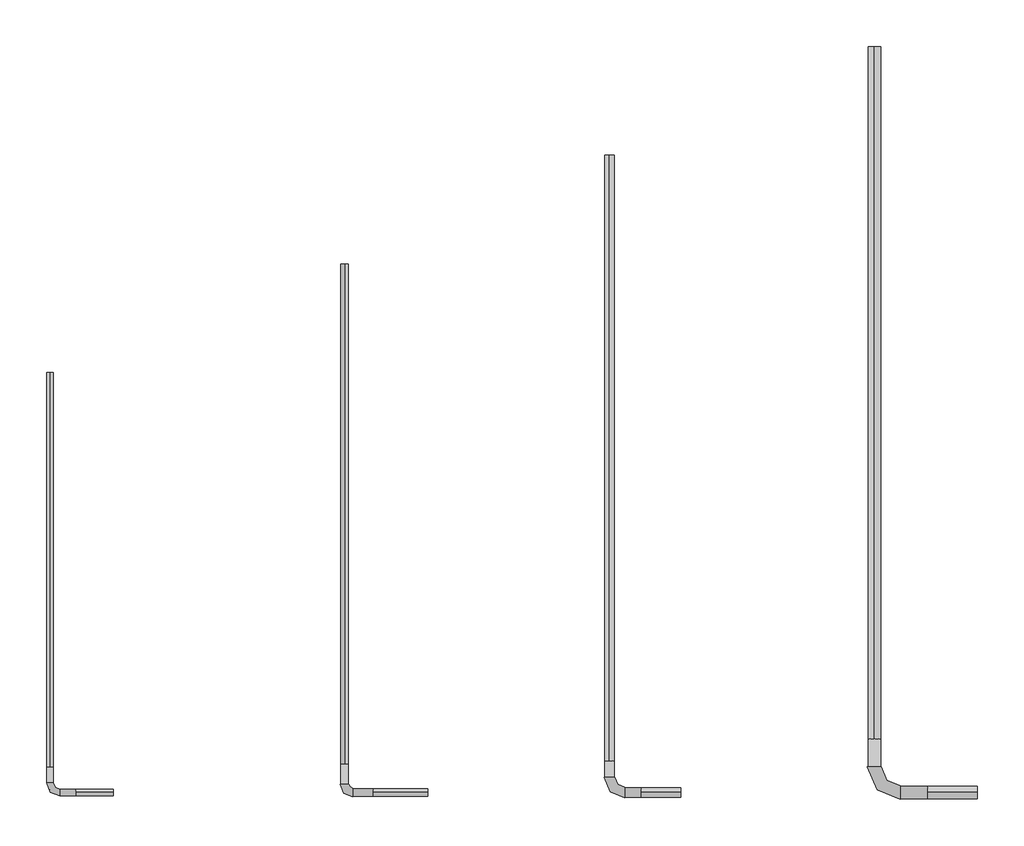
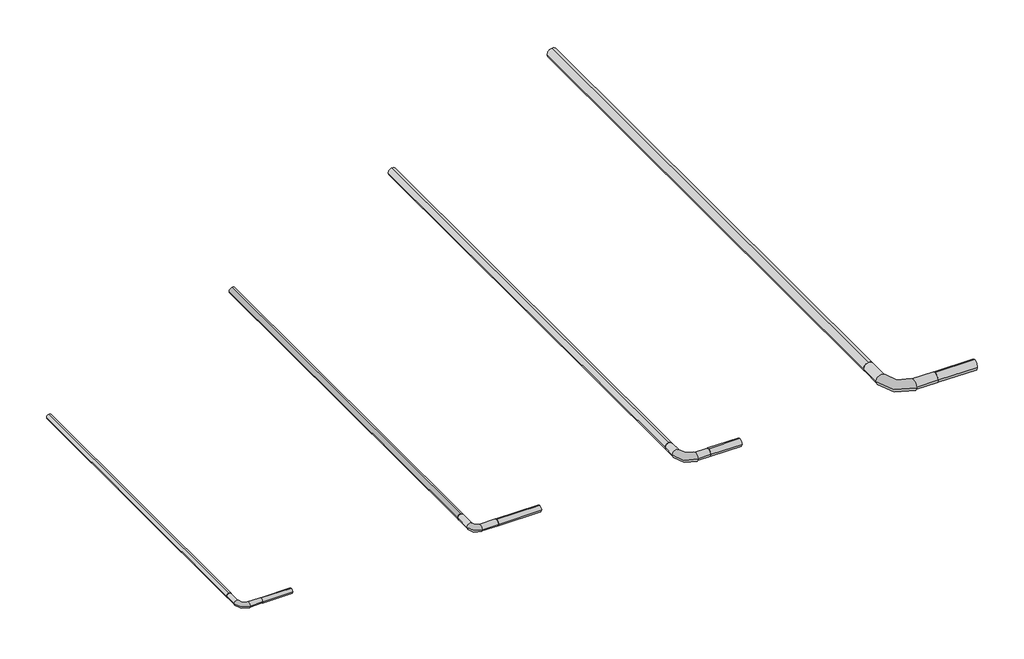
# One storey, incomplete: 8 pipe segments, 4 pipe fittings.
"""IFC4 building model written with IfcOpenShell, lengths in millimetres."""

from ifc_helpers import new_model, si_unit, point, frame, frame_2d, origin, origin_2d, place, context, project, spatial, circle_curve, trimmed, segment, composite_curve, outline, extrude, transform, mapped, element, save
from components import pipe_fitting_81160ba3, pipe_fitting_69b39bb1, pipe_fitting_4785ee25, pipe_fitting_2bcd2a3f

model = new_model("IFC4")

# Units and contexts
model_context = context("Model", 3, world=origin())
ifc_project = project(units=[si_unit("LENGTHUNIT", "METRE", prefix="MILLI")], contexts=[model_context])

# Site, building, storey
site = spatial("IfcSite", under=ifc_project)
building = spatial("IfcBuilding", under=site)
storey = spatial("IfcBuildingStorey", under=building, Name="Этаж 01", Elevation=0.0)

# Pipe fittings
placement = place(None, origin())
pipe_fitting_shape = pipe_fitting_81160ba3(model_context)
element("IfcPipeFitting", 1, ObjectType="ADSK_ФитингСварнойПЭ_Отвод : Стандартная", at=placement, inside=storey, context=model_context, shape_type="MappedRepresentation", body=[
    mapped(pipe_fitting_shape, transform((2025.4185077, 0.0, 0.0), x_axis=(0.0, -1.0, 0.0), y_axis=(1.0, 0.0, 0.0), z_axis=(0.0, 0.0, 1.0))),
])
pipe_fitting_2_shape = pipe_fitting_69b39bb1(model_context)
element("IfcPipeFitting", 2, ObjectType="ADSK_ФитингСварнойПЭ_Отвод : Стандартная", at=placement, inside=storey, context=model_context, shape_type="MappedRepresentation", body=[
    mapped(pipe_fitting_2_shape, transform((688.2756506, 0.0, 0.0), x_axis=(0.0, -1.0, 0.0), y_axis=(1.0, 0.0, 0.0), z_axis=(0.0, 0.0, 1.0))),
])
pipe_fitting_3_shape = pipe_fitting_4785ee25(model_context)
element("IfcPipeFitting", 3, ObjectType="ADSK_ФитингСварнойПЭ_Отвод : Стандартная", at=placement, inside=storey, context=model_context, shape_type="MappedRepresentation", body=[
    mapped(pipe_fitting_3_shape, transform((1356.8470791, 0.0, 0.0), x_axis=(0.0, -1.0, 0.0), y_axis=(1.0, 0.0, 0.0), z_axis=(0.0, 0.0, 1.0))),
])
pipe_fitting_4_shape = pipe_fitting_2bcd2a3f(model_context)
element("IfcPipeFitting", 4, ObjectType="ADSK_ФитингСварнойПЭ_Отвод : Стандартная", at=placement, inside=storey, context=model_context, shape_type="MappedRepresentation", body=[
    mapped(pipe_fitting_4_shape, transform((-54.876205, 0.0, 0.0), x_axis=(0.0, -1.0, 0.0), y_axis=(1.0, 0.0, 0.0), z_axis=(0.0, 0.0, 1.0))),
])

# Pipe segments
element("IfcPipeSegment", 5, ObjectType="VALTEC_ PE-Xa/EVOH(Серая)", at=placement, inside=storey, context=model_context, shape_type="SweptSolid", body=[
    extrude(outline(composite_curve([segment(trimmed(circle_curve(frame_2d((0.0, -54.876205)), 8.0), [point((0.0, -46.876205))], [point((8.0, -54.876205))], False, "CARTESIAN"), True, "CONTINUOUS"), segment(trimmed(circle_curve(frame_2d((0.0, -54.876205)), 8.0), [point((8.0, -54.876205))], [point((0.0, -62.876205))], False, "CARTESIAN"), True, "CONTINUOUS"), segment(trimmed(circle_curve(frame_2d((0.0, -54.876205)), 8.0), [point((0.0, -62.876205))], [point((-8.0, -54.876205))], False, "CARTESIAN"), True, "CONTINUOUS"), segment(trimmed(circle_curve(frame_2d((0.0, -54.876205)), 8.0), [point((-8.0, -54.876205))], [point((0.0, -46.876205))], False, "CARTESIAN"), True, "CONTINUOUS")], self_intersect=False)), frame((0.0, 65.0, 0.0), z_axis=(0.0, 1.0, 0.0), x_axis=(0.0, 0.0, 1.0)), (0.0, 0.0, 1.0), 995.0),
])
element("IfcPipeSegment", 6, ObjectType="VALTEC_ PE-Xa/EVOH(Серая)", at=placement, inside=storey, context=model_context, shape_type="SweptSolid", body=[
    extrude(outline(composite_curve([segment(trimmed(circle_curve(frame_2d((0.0, 688.2756506)), 10.0), [point((0.0, 678.2756506))], [point((-10.0, 688.2756506))], False, "CARTESIAN"), True, "CONTINUOUS"), segment(trimmed(circle_curve(frame_2d((0.0, 688.2756506)), 10.0), [point((-10.0, 688.2756506))], [point((0.0, 698.2756506))], False, "CARTESIAN"), True, "CONTINUOUS"), segment(trimmed(circle_curve(frame_2d((0.0, 688.2756506)), 10.0), [point((0.0, 698.2756506))], [point((10.0, 688.2756506))], False, "CARTESIAN"), True, "CONTINUOUS"), segment(trimmed(circle_curve(frame_2d((0.0, 688.2756506)), 10.0), [point((10.0, 688.2756506))], [point((0.0, 678.2756506))], False, "CARTESIAN"), True, "CONTINUOUS")], self_intersect=False)), frame((0.0, 73.0, 0.0), z_axis=(0.0, 1.0, 0.0), x_axis=(0.0, 0.0, 1.0)), (0.0, 0.0, 1.0), 1261.5034014),
])
element("IfcPipeSegment", 7, ObjectType="VALTEC_ PE-Xa/EVOH(Серая)", at=placement, inside=storey, context=model_context, shape_type="SweptSolid", body=[
    extrude(outline(composite_curve([segment(trimmed(circle_curve(frame_2d((0.0, 1356.8470791)), 12.5), [point((0.0, 1369.3470791))], [point((12.5, 1356.8470791))], False, "CARTESIAN"), True, "CONTINUOUS"), segment(trimmed(circle_curve(frame_2d((0.0, 1356.8470791)), 12.5), [point((12.5, 1356.8470791))], [point((0.0, 1344.3470791))], False, "CARTESIAN"), True, "CONTINUOUS"), segment(trimmed(circle_curve(frame_2d((0.0, 1356.8470791)), 12.5), [point((0.0, 1344.3470791))], [point((-12.5, 1356.8470791))], False, "CARTESIAN"), True, "CONTINUOUS"), segment(trimmed(circle_curve(frame_2d((0.0, 1356.8470791)), 12.5), [point((-12.5, 1356.8470791))], [point((0.0, 1369.3470791))], False, "CARTESIAN"), True, "CONTINUOUS")], self_intersect=False)), frame((0.0, 80.0, 0.0), z_axis=(0.0, 1.0, 0.0), x_axis=(0.0, 0.0, 1.0)), (0.0, 0.0, 1.0), 1529.0068027),
])
element("IfcPipeSegment", 8, ObjectType="VALTEC_ PE-Xa/EVOH(Серая)", at=placement, inside=storey, context=model_context, shape_type="SweptSolid", body=[
    extrude(outline(composite_curve([segment(trimmed(circle_curve(frame_2d((0.0, 2025.4185077)), 16.0), [point((0.0, 2041.4185077))], [point((16.0, 2025.4185077))], False, "CARTESIAN"), True, "CONTINUOUS"), segment(trimmed(circle_curve(frame_2d((0.0, 2025.4185077)), 16.0), [point((16.0, 2025.4185077))], [point((0.0, 2009.4185077))], False, "CARTESIAN"), True, "CONTINUOUS"), segment(trimmed(circle_curve(frame_2d((0.0, 2025.4185077)), 16.0), [point((0.0, 2009.4185077))], [point((-16.0, 2025.4185077))], False, "CARTESIAN"), True, "CONTINUOUS"), segment(trimmed(circle_curve(frame_2d((0.0, 2025.4185077)), 16.0), [point((-16.0, 2025.4185077))], [point((0.0, 2041.4185077))], False, "CARTESIAN"), True, "CONTINUOUS")], self_intersect=False)), frame((0.0, 135.0, 0.0), z_axis=(0.0, 1.0, 0.0), x_axis=(0.0, 0.0, 1.0)), (0.0, 0.0, 1.0), 1748.5102041),
])
element("IfcPipeSegment", 9, ObjectType="VALTEC_ PE-Xa/EVOH(Серая)", at=placement, inside=storey, context=model_context, shape_type="SweptSolid", body=[
    extrude(outline(composite_curve([segment(trimmed(circle_curve(origin_2d(), 10.0), [point((-10.0, 0.0))], [point((0.0, 10.0))], False, "CARTESIAN"), True, "CONTINUOUS"), segment(trimmed(circle_curve(origin_2d(), 10.0), [point((0.0, 10.0))], [point((10.0, 0.0))], False, "CARTESIAN"), True, "CONTINUOUS"), segment(trimmed(circle_curve(origin_2d(), 10.0), [point((10.0, 0.0))], [point((0.0, -10.0))], False, "CARTESIAN"), True, "CONTINUOUS"), segment(trimmed(circle_curve(origin_2d(), 10.0), [point((0.0, -10.0))], [point((-10.0, 0.0))], False, "CARTESIAN"), True, "CONTINUOUS")], self_intersect=False)), frame((761.2756506, 0.0, 0.0), z_axis=(1.0, 0.0, 0.0), x_axis=(0.0, 1.0, 0.0)), (0.0, 0.0, 1.0), 137.0),
])
element("IfcPipeSegment", 10, ObjectType="VALTEC_ PE-Xa/EVOH(Серая)", at=placement, inside=storey, context=model_context, shape_type="SweptSolid", body=[
    extrude(outline(composite_curve([segment(trimmed(circle_curve(origin_2d(), 12.5), [point((-12.5, 0.0))], [point((0.0, 12.5))], False, "CARTESIAN"), True, "CONTINUOUS"), segment(trimmed(circle_curve(origin_2d(), 12.5), [point((0.0, 12.5))], [point((12.5, 0.0))], False, "CARTESIAN"), True, "CONTINUOUS"), segment(trimmed(circle_curve(origin_2d(), 12.5), [point((12.5, 0.0))], [point((0.0, -12.5))], False, "CARTESIAN"), True, "CONTINUOUS"), segment(trimmed(circle_curve(origin_2d(), 12.5), [point((0.0, -12.5))], [point((-12.5, 0.0))], False, "CARTESIAN"), True, "CONTINUOUS")], self_intersect=False)), frame((1436.8470791, 0.0, 0.0), z_axis=(1.0, 0.0, 0.0), x_axis=(0.0, 1.0, 0.0)), (0.0, 0.0, 1.0), 100.0),
])
element("IfcPipeSegment", 11, ObjectType="VALTEC_ PE-Xa/EVOH(Серая)", at=placement, inside=storey, context=model_context, shape_type="SweptSolid", body=[
    extrude(outline(composite_curve([segment(trimmed(circle_curve(origin_2d(), 16.0), [point((-16.0, 0.0))], [point((0.0, 16.0))], False, "CARTESIAN"), True, "CONTINUOUS"), segment(trimmed(circle_curve(origin_2d(), 16.0), [point((0.0, 16.0))], [point((16.0, 0.0))], False, "CARTESIAN"), True, "CONTINUOUS"), segment(trimmed(circle_curve(origin_2d(), 16.0), [point((16.0, 0.0))], [point((0.0, -16.0))], False, "CARTESIAN"), True, "CONTINUOUS"), segment(trimmed(circle_curve(origin_2d(), 16.0), [point((0.0, -16.0))], [point((-16.0, 0.0))], False, "CARTESIAN"), True, "CONTINUOUS")], self_intersect=False)), frame((2160.4185077, 0.0, 0.0), z_axis=(1.0, 0.0, 0.0), x_axis=(0.0, 1.0, 0.0)), (0.0, 0.0, 1.0), 125.0),
])
element("IfcPipeSegment", 12, ObjectType="VALTEC_ PE-Xa/EVOH(Серая)", at=placement, inside=storey, context=model_context, shape_type="SweptSolid", body=[
    extrude(outline(composite_curve([segment(trimmed(circle_curve(origin_2d(), 8.0), [point((-8.0, 0.0))], [point((0.0, 8.0))], False, "CARTESIAN"), True, "CONTINUOUS"), segment(trimmed(circle_curve(origin_2d(), 8.0), [point((0.0, 8.0))], [point((8.0, 0.0))], False, "CARTESIAN"), True, "CONTINUOUS"), segment(trimmed(circle_curve(origin_2d(), 8.0), [point((8.0, 0.0))], [point((0.0, -8.0))], False, "CARTESIAN"), True, "CONTINUOUS"), segment(trimmed(circle_curve(origin_2d(), 8.0), [point((0.0, -8.0))], [point((-8.0, 0.0))], False, "CARTESIAN"), True, "CONTINUOUS")], self_intersect=False)), frame((10.123795, 0.0, 0.0), z_axis=(1.0, 0.0, 0.0), x_axis=(0.0, 1.0, 0.0)), (0.0, 0.0, 1.0), 95.0),
])

save(model, "model.ifc")
